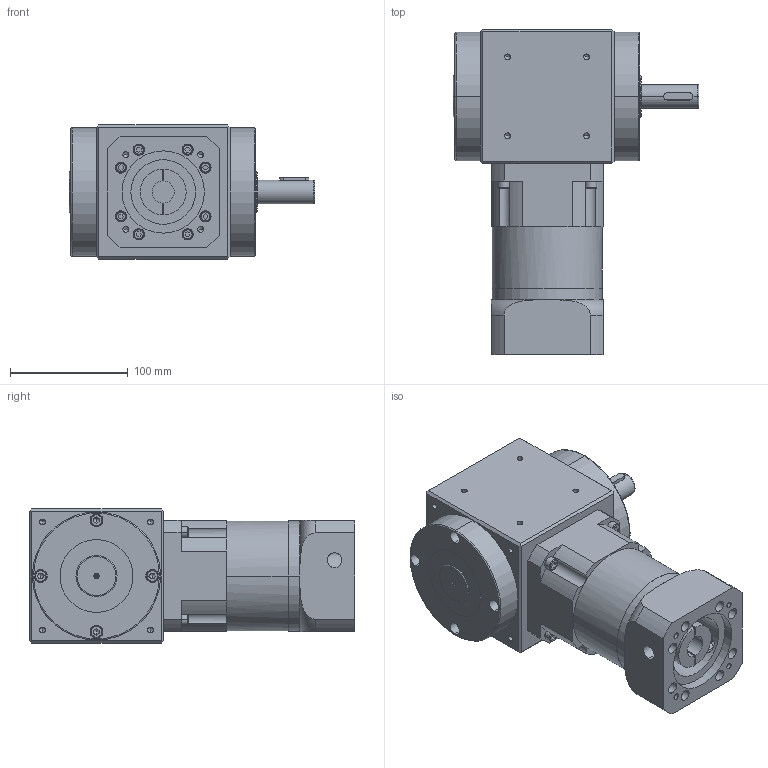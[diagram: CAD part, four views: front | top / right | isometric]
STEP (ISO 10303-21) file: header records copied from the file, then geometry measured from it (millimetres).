
FILE_DESCRIPTION (( 'STEP AP214' ), '1' );
FILE_NAME ('RAH090-L2-XX-S-19-70-90-M6_2019.STEP', '2019-03-22T10:49:40', ( 'Y' ), ( 'NCU' ), 'SwSTEP 2.0', 'SolidWorks 2016', '' );
FILE_SCHEMA (( 'AUTOMOTIVE_DESIGN' ));
Length unit declared in the file: millimetre
Products named in the file (1): RAH090-L2-XX-S-19-70-90-M6_2019
Bounding box: 209 x 276.5 x 114 mm (x, y, z)
Volume: 3057757.8 mm3; surface area: 212624.3 mm2
Topology: 2 solids, 19 shells, 666 faces, 1539 edges, 938 vertices
Faces by surface type: plane 309, cylinder 229, cone 100, torus 28
Entity records: 20196 total; most frequent: CARTESIAN_POINT 3824, DIRECTION 3386, ORIENTED_EDGE 2938, EDGE_CURVE 1469, AXIS2_PLACEMENT_3D 1284, VERTEX_POINT 938, VECTOR 818, LINE 818
